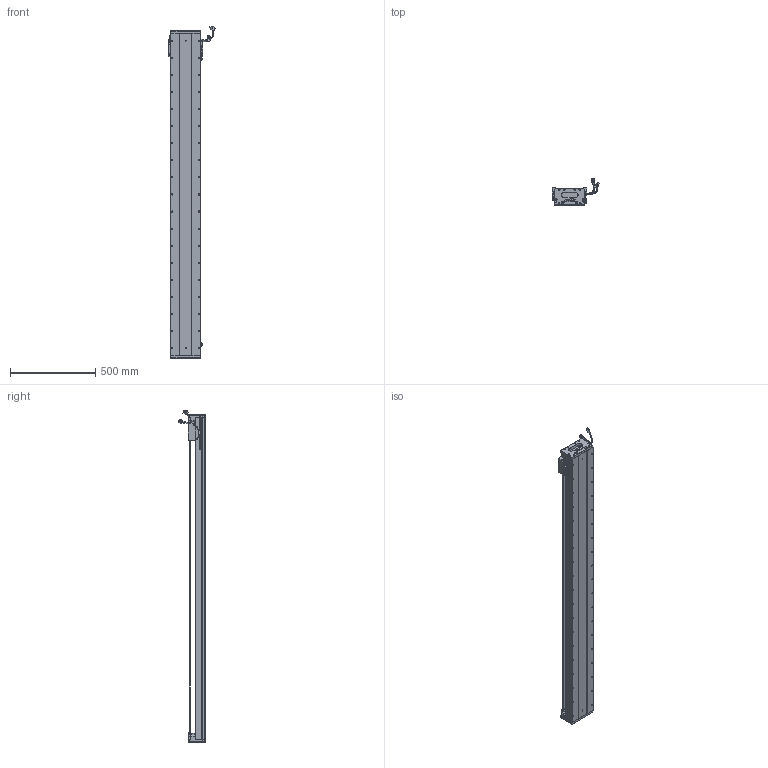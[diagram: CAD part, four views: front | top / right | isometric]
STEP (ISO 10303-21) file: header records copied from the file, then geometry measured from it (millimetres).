
FILE_DESCRIPTION (( 'STEP AP203' ), '1' );
FILE_NAME ('Z1-RY170D-1-L500-B-K.SLDASM_1700.step', '2021-05-17T08:53:41', ( '盈信电脑' ), ( '东莞市道滘镇水果街19号' ), 'SwSTEP 2.0', 'SolidWorks 2016', '' );
FILE_SCHEMA (( 'CONFIG_CONTROL_DESIGN' ));
Length unit declared in the file: millimetre
Products named in the file (36): SCREW-M1.6; 140蚥薯蝶輸; 170-Z-臏賑輸盄裔(21遴); Z-RY170詩湍狟揤裔; PSLH080_PSLF2; SCREW-M1.7-1; SHIELDPLATE; HARNESS-Part-2; SCALE-Part-1; RY170直线电机感应器672光电感应片; SCREW-M1.6-2; SEAL; 140雄赽晤鎢ん堤盄; Z1-RY170臏賑輸(21遴); HARNESS; LABEL-Part-1; 榋妏寠巭燃_暯_M2_2; SCALE; HARNESS-Part-1; SCREW-M1.6-3; COVER-Part-1; SEAL-Part-1; PBU_SHEET; SCALE-Part-2; Z-RY170詩湍奻揤裔; COVER; SCREW-M1.7; 覜茼ん672; Z-170詩湍傷裔啣; HOLDER0; Z1-RY170D-1-L500-B-K.SLDASM_1700; LABEL; 080黍杅芛假蚾釱21遴; Z1-RY170-L500耀郪菁釱_1700; Z1-RY170-L500詩湍145mm遵_1700; SCREW-M1.6-1
Assembly tree (41 placements, depth 4):
  Z1-RY170D-1-L500-B-K.SLDASM_1700
    Z1-RY170-L500耀郪菁釱_1700
    RY170直线电机感应器672光电感应片
    Z1-RY170臏賑輸(21遴)
    覜茼ん672  x3
    PSLH080_PSLF2
      SCALE
        SCALE-Part-1
        SCALE-Part-2
      HARNESS
        HARNESS-Part-1
        HARNESS-Part-2
      LABEL
        LABEL-Part-1
      COVER
        COVER-Part-1
      SEAL
        SEAL-Part-1
      榋妏寠巭燃_暯_M2_2
      SHIELDPLATE
      SCREW-M1.7
      SCREW-M1.7-1
      PBU_SHEET
      SCREW-M1.6
      SCREW-M1.6-1
      SCREW-M1.6-2
      SCREW-M1.6-3
      HOLDER0
    080黍杅芛假蚾釱21遴
    Z1-RY170-L500詩湍145mm遵_1700
    Z-170詩湍傷裔啣  x2
    Z-RY170詩湍奻揤裔  x2
    Z-RY170詩湍狟揤裔  x2
    140蚥薯蝶輸  x2
    170-Z-臏賑輸盄裔(21遴)
    140雄赽晤鎢ん堤盄
Bounding box: 275.34 x 158.11 x 1943.72 mm (x, y, z)
Volume: 9568799.7 mm3; surface area: 2388661.4 mm2
Topology: 36 solids, 36 shells, 3520 faces, 9651 edges, 6047 vertices
Faces by surface type: cylinder 1706, plane 1228, cone 464, torus 69, bspline 53
Entity records: 108059 total; most frequent: CARTESIAN_POINT 29492, ORIENTED_EDGE 15946, DIRECTION 15077, EDGE_CURVE 7973, AXIS2_PLACEMENT_3D 5522, VERTEX_POINT 5165, LINE 4033, VECTOR 4033
